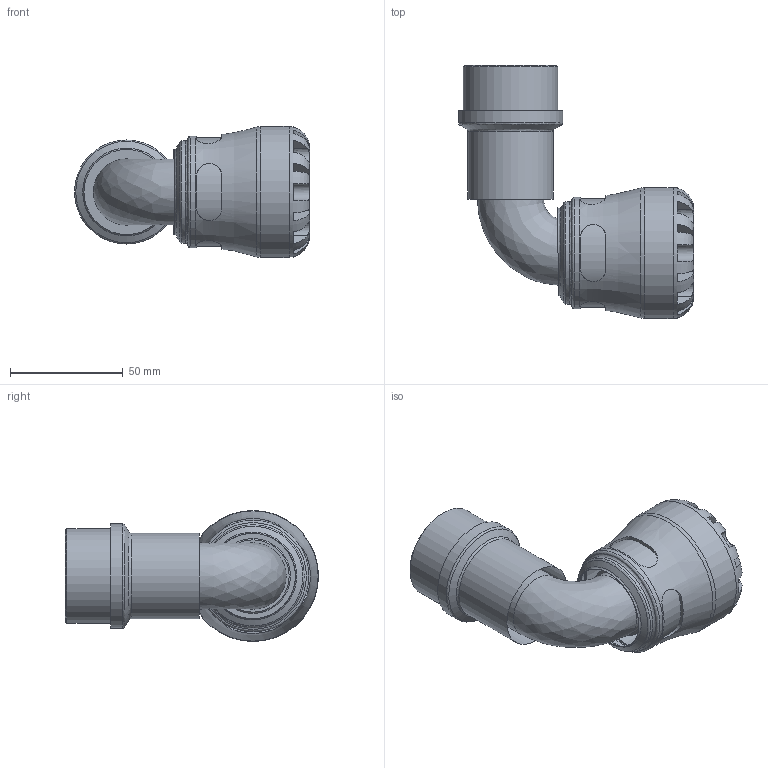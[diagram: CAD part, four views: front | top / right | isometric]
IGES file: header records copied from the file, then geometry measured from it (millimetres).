
Global section: file name: 107700032013_197700032013.ipt; native system: Autodesk Inventor 2015; preprocessor: unknown; author: KIM; date: 20170122.115456; units: millimetre
Bounding box: 104.05 x 112 x 58 mm (x, y, z)
Volume: 130838.4 mm3; surface area: 40900.6 mm2
Topology: 1 solids, 1 shells, 112 faces, 290 edges, 183 vertices
Faces by surface type: plane 60, revolution 28, cylinder 18, bspline 4, cone 2
Full cylindrical faces by diameter (mm): 37.719 x1, 41.91 x1, 45.24 x1, 46.101 x1, 49.3 x1, 58 x1
